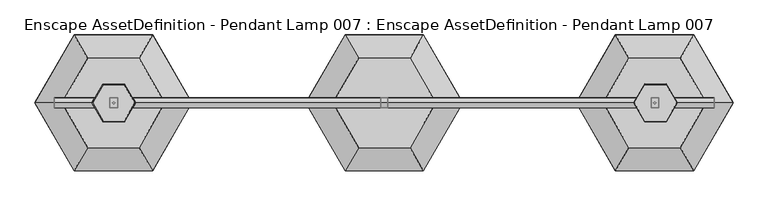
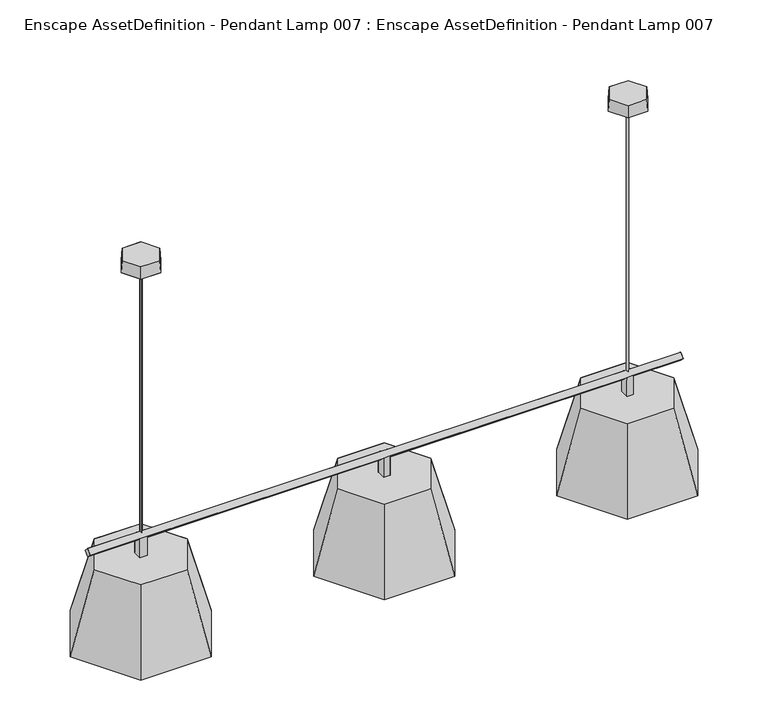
"""IFC4 building model written with IfcOpenShell, lengths in millimetres: geographic element geometry, Enscape AssetDefinition - Pendant Lamp 007 : Enscape AssetDefinition - Pendant Lamp 007."""

import ifcopenshell
import ifcopenshell.guid

model = None  # the IFC model being written
_history = None  # IfcOwnerHistory: only IFC2X3 demands one
_inside = {}  # id of a spatial element -> (the spatial element, [elements in it])
_under = {}  # id of a project, library or spatial element -> (it, [spatial elements below it])
_declared = {}  # id of a project -> (the project, [libraries it declares])
_typed = {}  # id of a type object -> (the type object, [elements of that type])
_made_of = {}  # id of a material, layer set ... -> (it, [elements and type objects made of it])


def new_model(schema):
    """Start an empty IFC model of exactly this schema.

    Asked for "IFC4X3", IfcOpenShell would pick the latest addendum, in which some entities
    have other attributes; the version numbers below select the first issue.
    IFC2X3 requires an IfcOwnerHistory on every rooted entity: one is made here for all.
    """
    global model, _history
    if schema == "IFC4X3":
        model = ifcopenshell.file(schema_version=(4, 3, 0, 0))
    else:
        model = ifcopenshell.file(schema=schema)
    _inside.clear()
    _under.clear()
    _declared.clear()
    _typed.clear()
    _made_of.clear()
    _history = None
    if model.schema == "IFC2X3":
        org = make("IfcOrganization", Name="unknown")
        user = make(
            "IfcPersonAndOrganization",
            ThePerson=make("IfcPerson", FamilyName="unknown"),
            TheOrganization=org,
        )
        app = make(
            "IfcApplication",
            ApplicationDeveloper=org,
            Version="unknown",
            ApplicationFullName="unknown",
            ApplicationIdentifier="unknown",
        )
        _history = make(
            "IfcOwnerHistory",
            OwningUser=user,
            OwningApplication=app,
            ChangeAction="ADDED",
            CreationDate=0,
        )
    return model


def make(cls, **values):
    """One entity of the class cls with the attributes given. An attribute that is None is left unset."""
    return model.create_entity(
        cls, **{name: value for name, value in values.items() if value is not None}
    )


def rooted(cls, **values):
    """An entity with a GlobalId (a new one), such as an element, a storey or a relation."""
    return make(cls, GlobalId=ifcopenshell.guid.new(), OwnerHistory=_history, **values)


def si_unit(unit_type, name, prefix=None):
    """IfcSIUnit, for example si_unit("LENGTHUNIT", "METRE", prefix="MILLI")."""
    return make("IfcSIUnit", UnitType=unit_type, Prefix=prefix, Name=name)


def assignment(units):
    """IfcUnitAssignment: the units of a project."""
    return None if units is None else make("IfcUnitAssignment", Units=units)


def point(xyz):
    """IfcCartesianPoint."""
    return None if xyz is None else make("IfcCartesianPoint", Coordinates=xyz)


def direction(xyz):
    """IfcDirection."""
    return None if xyz is None else make("IfcDirection", DirectionRatios=xyz)


def frame(location, z_axis=None, x_axis=None):
    """IfcAxis2Placement3D, a coordinate frame: its origin and axes. An axis left out is left unset."""
    return make(
        "IfcAxis2Placement3D",
        Location=point(location),
        Axis=direction(z_axis),
        RefDirection=direction(x_axis),
    )


def origin():
    """The frame at (0, 0, 0) with its axes left unset."""
    return frame((0.0, 0.0, 0.0))


def place(relative_to, where):
    """IfcLocalPlacement: puts the frame where relative to a parent placement (None: the world)."""
    return make(
        "IfcLocalPlacement", PlacementRelTo=relative_to, RelativePlacement=where
    )


def context(
    kind, dimensions, precision=None, world=None, true_north=None, identifier=None
):
    """IfcGeometricRepresentationContext, for example the 3D "Model" context."""
    return make(
        "IfcGeometricRepresentationContext",
        ContextIdentifier=identifier,
        ContextType=kind,
        CoordinateSpaceDimension=dimensions,
        Precision=precision,
        WorldCoordinateSystem=world,
        TrueNorth=true_north,
    )


def project(units=None, contexts=None):
    """IfcProject with its units and contexts."""
    return rooted(
        "IfcProject",
        Name="project",
        RepresentationContexts=contexts,
        UnitsInContext=assignment(units),
    )


def spatial(cls, under=None, at=None, **own):
    """A site, building, storey or space (cls), placed at a placement, below another one or the project."""
    s = rooted(cls, ObjectPlacement=at, **own)
    if under is not None:
        _under.setdefault(under.id(), (under, []))[1].append(s)
    return s


def point_list(points):
    """IfcCartesianPointList2D or 3D."""
    cls = (
        "IfcCartesianPointList2D" if len(points[0]) == 2 else "IfcCartesianPointList3D"
    )
    return make(cls, CoordList=points)


def triangles(points, corners, closed=None, point_numbers=None):
    """IfcTriangulatedFaceSet: each triangle names its three corners, points numbered from 1."""
    return make(
        "IfcTriangulatedFaceSet",
        Coordinates=point_list(points),
        Closed=closed,
        CoordIndex=corners,
        PnIndex=point_numbers,
    )


def shape(context_of_items, identifier, shape_type, items):
    """IfcShapeRepresentation: the items that make up one representation, for example the "Body"."""
    return make(
        "IfcShapeRepresentation",
        ContextOfItems=context_of_items,
        RepresentationIdentifier=identifier,
        RepresentationType=shape_type,
        Items=items,
    )


def source(mapping_origin, context_of_items, identifier, shape_type, items):
    """IfcRepresentationMap: a shape defined once, which mapped items show again and again."""
    return make(
        "IfcRepresentationMap",
        MappingOrigin=mapping_origin,
        MappedRepresentation=shape(context_of_items, identifier, shape_type, items),
    )


def transform(
    local_origin,
    x_axis=None,
    y_axis=None,
    z_axis=None,
    scale=None,
    scale2=None,
    scale3=None,
    uniform=True,
):
    """IfcCartesianTransformationOperator3D, or its non-uniform kind. x_axis, y_axis, z_axis: its Axis1, 2, 3."""
    if uniform:
        return make(
            "IfcCartesianTransformationOperator3D",
            Axis1=direction(x_axis),
            Axis2=direction(y_axis),
            LocalOrigin=point(local_origin),
            Scale=scale,
            Axis3=direction(z_axis),
        )
    return make(
        "IfcCartesianTransformationOperator3DnonUniform",
        Axis1=direction(x_axis),
        Axis2=direction(y_axis),
        LocalOrigin=point(local_origin),
        Scale=scale,
        Axis3=direction(z_axis),
        Scale2=scale2,
        Scale3=scale3,
    )


def mapped(mapping_source, mapping_target):
    """IfcMappedItem: shows the shape of a source again, moved by a transform."""
    return make(
        "IfcMappedItem", MappingSource=mapping_source, MappingTarget=mapping_target
    )


def made_of(thing, what):
    """Note that an element or type object is made of a material, layer set ...; save() writes the relation."""
    if what is not None:
        _made_of.setdefault(what.id(), (what, []))[1].append(thing)
    return thing


def element(
    cls,
    number,
    at=None,
    inside=None,
    cuts=None,
    type_object=None,
    material=None,
    context=None,
    identifier="Body",
    shape_type=None,
    held_by="IfcProductDefinitionShape",
    body=None,
    shapes=None,
    **own,
):
    """One element of the class cls, such as IfcWall. Its Tag is "e" and its number.

    at: its placement. inside: the storey or other place that contains it. cuts: it is an
    opening in that element (IfcRelVoidsElement). A single representation is given by context,
    identifier, shape_type and body (its items); several are given by shapes. held_by: the class
    of the entity that holds the representations. save() writes the other relations.
    """
    e = rooted(cls, Tag="e%d" % number, ObjectPlacement=at, **own)
    if body is not None:
        shapes = [shape(context, identifier, shape_type, body)]
    if shapes is not None:
        e.Representation = make(held_by, Representations=shapes)
    if inside is not None:
        _inside.setdefault(inside.id(), (inside, []))[1].append(e)
    if cuts is not None:
        rooted(
            "IfcRelVoidsElement", RelatingBuildingElement=cuts, RelatedOpeningElement=e
        )
    if type_object is not None:
        _typed.setdefault(type_object.id(), (type_object, []))[1].append(e)
    return made_of(e, material)


def aggregate(whole, parts):
    """IfcRelAggregates: a whole, such as a stair, and the parts it consists of."""
    return rooted("IfcRelAggregates", RelatingObject=whole, RelatedObjects=parts)


def save(model, path):
    """Write the relations noted so far, then the file.

    IfcRelAggregates (storeys below a building ...), IfcRelContainedInSpatialStructure (elements
    in a storey), IfcRelDefinesByType, IfcRelAssociatesMaterial and IfcRelDeclares: one each for
    every whole, place, type object, material and project.
    """
    for whole, parts in _under.values():
        aggregate(whole, parts)
    for where, things in _inside.values():
        rooted(
            "IfcRelContainedInSpatialStructure",
            RelatedElements=things,
            RelatingStructure=where,
        )
    for kind, things in _typed.values():
        rooted("IfcRelDefinesByType", RelatedObjects=things, RelatingType=kind)
    for what, things in _made_of.values():
        rooted("IfcRelAssociatesMaterial", RelatedObjects=things, RelatingMaterial=what)
    for by, libraries in _declared.values():
        rooted("IfcRelDeclares", RelatingContext=by, RelatedDefinitions=libraries)
    model.write(path)


def enscape_assetdefinition_pendant_lamp_007_enscape_ddbe99dc(model_context):
    return source(origin(), model_context, "Body", "Tessellation", [
        triangles([(86.2599056, -149.4065236, -980.4293272), (-86.2599056, -149.4065236, -980.4293272), (56.6238148, -98.0753453, -775.2417063), (-172.5198657, 2.83e-05, -980.4293272), (172.5198657, 4.34e-05, -980.4293272), (56.6238148, 98.0754089, -775.2417063), (-86.2599056, 149.4065962, -980.4293272), (86.2599056, 149.4065962, -980.4293272), (-56.6238148, -98.0753453, -775.2417063), (-113.2476751, 3.11e-05, -775.2417063), (113.2476751, 4.1e-05, -775.2417063), (-56.6238148, 98.0754089, -775.2417063), (-725.1704893, -10.9018327, -725.6624651), (-725.1704893, 10.9018963, -725.6624651), (-604.0339517, 10.9018963, -725.6624651), (-725.1704893, 3.35e-05, -736.5642706), (-725.1704893, 3.09e-05, -714.7605143), (-604.033879, 3.35e-05, -736.5642706), (-604.0339517, -10.9018327, -725.6624651), (-604.0339517, 10.9018963, -793.5914583), (-604.033879, 3.23e-05, -793.5914583), (-604.0339517, -10.9018327, -793.5914583), (-604.0339517, 3.09e-05, -714.7605143), (-585.9676126, 3.09e-05, -714.7605143), (-8.0322864, 3.09e-05, -714.7605143), (-585.9676126, 10.9018963, -725.6624651), (-8.0322864, 10.9018975, -725.6624651), (-585.9675399, 3.35e-05, -736.5642706), (-585.9675399, 3.23e-05, -793.5914583), (-8.0322109, 3.35e-05, -736.5642706), (-8.0322864, -10.9018339, -725.6624651), (-585.9676126, -10.9018327, -725.6624651), (-585.9676126, -10.9018327, -793.5914583), (-8.0322864, 10.9018975, -793.5914583), (7.9862761, 10.9018975, -725.6624651), (7.9862761, 10.9018975, -793.5914583), (7.9863516, 3.23e-05, -793.5914583), (7.9863516, 3.35e-05, -736.5642706), (7.9862761, -10.9018339, -793.5914583), (586.6262933, 3.35e-05, -736.5642706), (7.9862761, -10.9018339, -725.6624651), (-8.0322109, 3.23e-05, -793.5914583), (-8.0322864, -10.9018339, -793.5914583), (586.6262933, -10.9018327, -725.6624651), (586.6262933, 3.23e-05, -793.5914583), (7.9862761, 3.09e-05, -714.7605143), (603.2768031, -10.9018327, -725.6624651), (586.6262933, 3.09e-05, -714.7605143), (725.3062368, -10.9018327, -725.6624651), (603.2768031, 3.09e-05, -714.7605143), (603.2768031, 10.9018963, -725.6624651), (586.6262933, 10.9018963, -725.6624651), (603.2768031, 10.9018963, -793.5914583), (725.3062368, 3.09e-05, -714.7605143), (603.2768031, 3.23e-05, -793.5914583), (725.3062368, 10.9018963, -725.6624651), (725.3062368, 3.35e-05, -736.5642706), (603.2768031, 3.35e-05, -736.5642706), (603.2768031, -10.9018327, -793.5914583), (586.6262933, -10.9018327, -793.5914583), (586.6262933, 10.9018963, -793.5914583), (-585.9676126, 10.9018963, -793.5914583), (-570.9151156, -41.6778203, -30.2849383), (-546.8524129, 3.96e-05, -30.2849383), (-619.0405575, -41.6778203, -30.2849383), (-618.1134338, -40.0719999, 7.56e-05), (-570.9151156, 41.6778975, -30.2849383), (-641.2489403, 3.6e-05, 7.56e-05), (-618.1134338, 40.072068, 7.56e-05), (-619.0405575, 41.6778794, -30.2849383), (-643.1033329, 3.54e-05, -30.2849383), (-571.8422029, -40.0719999, 7.56e-05), (-548.7066602, 4e-05, 7.56e-05), (-571.8422029, 40.072068, 7.56e-05), (644.4687292, 3.96e-05, -30.2849383), (642.6143366, 4e-05, 7.56e-05), (619.4788301, -40.0719999, 7.56e-05), (620.4059538, -41.6778203, -30.2849383), (548.2178455, 3.54e-05, -30.2849383), (572.280512, -41.6778203, -30.2849383), (619.4788301, 40.072068, 7.56e-05), (550.0720201, 3.6e-05, 7.56e-05), (620.4059538, 41.6778975, -30.2849383), (572.280512, 41.6778794, -30.2849383), (573.2076719, -40.0719999, 7.56e-05), (573.2076719, 40.072068, 7.56e-05), (591.7143911, -4.02e-05, -25.5086742), (594.6875745, -2.9732759, -25.5086742), (594.6875745, 2.9731956, -25.5086742), (594.6875745, 2.9733091, -732.4078382), (594.6875745, -2.9731626, -732.4078382), (591.7143911, 7.33e-05, -732.4078382), (597.6608305, -3.99e-05, -25.5086742), (597.6608305, 7.36e-05, -732.4078382), (-597.7765211, -4.02e-05, -25.5086742), (-597.7765211, 7.33e-05, -732.4078382), (-594.8032288, -2.9732759, -25.5086742), (-594.8032288, 2.9731956, -25.5086742), (-591.8299727, -3.99e-05, -25.5086742), (-594.8032288, -2.9731626, -732.4078382), (-594.8032288, 2.9733091, -732.4078382), (-591.8299727, 7.36e-05, -732.4078382), (680.6674644, -149.4065236, -980.4293272), (508.1476533, -149.4065236, -980.4293272), (537.783744, -98.0753453, -775.2417063), (651.03141, 98.0754089, -775.2417063), (766.9273882, 4.34e-05, -980.4293272), (680.6674644, 149.4065962, -980.4293272), (537.783744, 98.0754089, -775.2417063), (508.1476533, 149.4065781, -980.4293272), (421.8876932, 2.83e-05, -980.4293272), (481.1599111, 3.11e-05, -775.2417063), (651.03141, -98.0753453, -775.2417063), (707.6552067, 4.1e-05, -775.2417063), (-509.2976558, -149.4065236, -980.4293272), (-423.0376957, 4.34e-05, -980.4293272), (-681.8174669, -149.4065236, -980.4293272), (-538.9337465, -98.0753453, -775.2417063), (-768.0774633, 2.83e-05, -980.4293272), (-509.2976558, 149.4065962, -980.4293272), (-708.8052092, 3.11e-05, -775.2417063), (-652.1814125, 98.0754089, -775.2417063), (-681.8174669, 149.4065781, -980.4293272), (-652.1814125, -98.0753453, -775.2417063), (-482.3099135, 4.1e-05, -775.2417063), (-538.9337465, 98.0754089, -775.2417063)], [[120, 122, 126], [125, 126, 122], [125, 122, 124], [118, 125, 124], [122, 121, 124], [119, 124, 121], [123, 119, 121], [120, 123, 122], [123, 121, 122], [116, 120, 126], [123, 120, 116], [116, 126, 125], [119, 117, 124], [117, 123, 116], [117, 119, 123], [117, 118, 124], [115, 116, 125], [117, 115, 118], [115, 125, 118], [115, 117, 116], [108, 109, 106], [114, 106, 109], [114, 109, 105], [113, 114, 105], [109, 112, 105], [111, 105, 112], [110, 111, 112], [108, 110, 109], [110, 112, 109], [107, 108, 106], [110, 108, 107], [107, 106, 114], [111, 104, 105], [104, 110, 107], [104, 111, 110], [104, 113, 105], [103, 107, 114], [104, 103, 113], [103, 114, 113], [103, 104, 107], [101, 98, 99], [99, 102, 101], [102, 99, 97], [97, 100, 102], [96, 101, 102], [102, 100, 96], [98, 101, 96], [99, 98, 95], [96, 95, 98], [100, 97, 95], [97, 99, 95], [95, 96, 100], [90, 89, 93], [93, 94, 90], [94, 93, 88], [88, 91, 94], [92, 90, 94], [94, 91, 92], [89, 90, 92], [93, 89, 87], [92, 87, 89], [91, 88, 87], [88, 93, 87], [87, 92, 91], [83, 86, 81], [76, 81, 86], [76, 86, 85], [77, 76, 85], [86, 82, 85], [79, 85, 82], [84, 79, 82], [83, 84, 86], [84, 82, 86], [75, 83, 81], [84, 83, 75], [75, 81, 76], [79, 80, 85], [80, 84, 75], [80, 79, 84], [80, 77, 85], [78, 75, 76], [80, 78, 77], [78, 76, 77], [78, 80, 75], [67, 69, 74], [73, 74, 69], [73, 69, 66], [72, 73, 66], [69, 68, 66], [71, 66, 68], [70, 71, 68], [67, 70, 69], [70, 68, 69], [64, 67, 74], [70, 67, 64], [64, 74, 73], [71, 65, 66], [65, 70, 64], [65, 71, 70], [65, 72, 66], [63, 64, 73], [65, 63, 72], [63, 73, 72], [63, 65, 64], [15, 62, 20], [40, 61, 45], [47, 60, 59], [58, 47, 59], [58, 59, 55], [56, 57, 58], [58, 57, 47], [57, 49, 47], [57, 56, 54], [54, 49, 57], [51, 58, 55], [54, 56, 51], [51, 55, 53], [51, 56, 58], [40, 52, 61], [52, 51, 53], [52, 53, 61], [50, 51, 52], [49, 54, 50], [50, 54, 51], [47, 49, 50], [48, 52, 35], [47, 50, 48], [48, 50, 52], [46, 35, 27], [46, 48, 35], [44, 40, 45], [47, 44, 60], [44, 48, 46], [44, 45, 60], [44, 47, 48], [31, 42, 43], [41, 31, 43], [40, 44, 41], [41, 44, 46], [41, 43, 39], [38, 41, 39], [52, 40, 38], [35, 52, 38], [38, 40, 41], [35, 38, 37], [38, 39, 37], [27, 35, 36], [35, 37, 36], [27, 36, 34], [32, 22, 33], [30, 27, 34], [31, 30, 42], [30, 31, 32], [30, 34, 42], [28, 32, 33], [27, 30, 28], [28, 33, 29], [28, 30, 32], [26, 28, 29], [15, 26, 62], [26, 29, 62], [26, 27, 28], [25, 27, 26], [41, 46, 25], [25, 46, 27], [31, 41, 25], [24, 26, 15], [31, 25, 24], [24, 25, 26], [32, 31, 24], [32, 24, 23], [23, 24, 15], [23, 15, 14], [17, 23, 14], [32, 19, 22], [19, 23, 17], [19, 21, 22], [19, 32, 23], [18, 15, 20], [19, 18, 21], [18, 20, 21], [18, 19, 13], [13, 19, 17], [17, 14, 16], [15, 18, 16], [13, 17, 16], [14, 15, 16], [16, 18, 13], [8, 12, 6], [11, 6, 12], [11, 12, 9], [3, 11, 9], [12, 10, 9], [4, 9, 10], [7, 4, 10], [8, 7, 12], [7, 10, 12], [5, 8, 6], [7, 8, 5], [5, 6, 11], [4, 2, 9], [2, 7, 5], [2, 4, 7], [2, 3, 9], [1, 5, 11], [2, 1, 3], [1, 11, 3], [1, 2, 5]], closed=False),
    ])


if __name__ == "__main__":
    model = new_model("IFC4")
    model_context = context("Model", 3, world=origin())
    ifc_project = project(units=[si_unit("LENGTHUNIT", "METRE", prefix="MILLI")], contexts=[model_context])
    site = spatial("IfcSite", under=ifc_project)
    building = spatial("IfcBuilding", under=site)
    placement = place(None, origin())
    enscape_assetdefinition_pendant_lamp_007_enscape_shape = enscape_assetdefinition_pendant_lamp_007_enscape_ddbe99dc(model_context)
    element("IfcGeographicElement", 1, ObjectType="Enscape AssetDefinition - Pendant Lamp 007 : Enscape AssetDefinition - Pendant Lamp 007", at=placement, inside=building, context=model_context, shape_type="MappedRepresentation", body=[
        mapped(enscape_assetdefinition_pendant_lamp_007_enscape_shape, transform((0.0, 0.0, 0.0), x_axis=(1.0, 0.0, 0.0), y_axis=(0.0, 1.0, 0.0), z_axis=(0.0, 0.0, 1.0))),
    ])
    save(model, "model.ifc")
